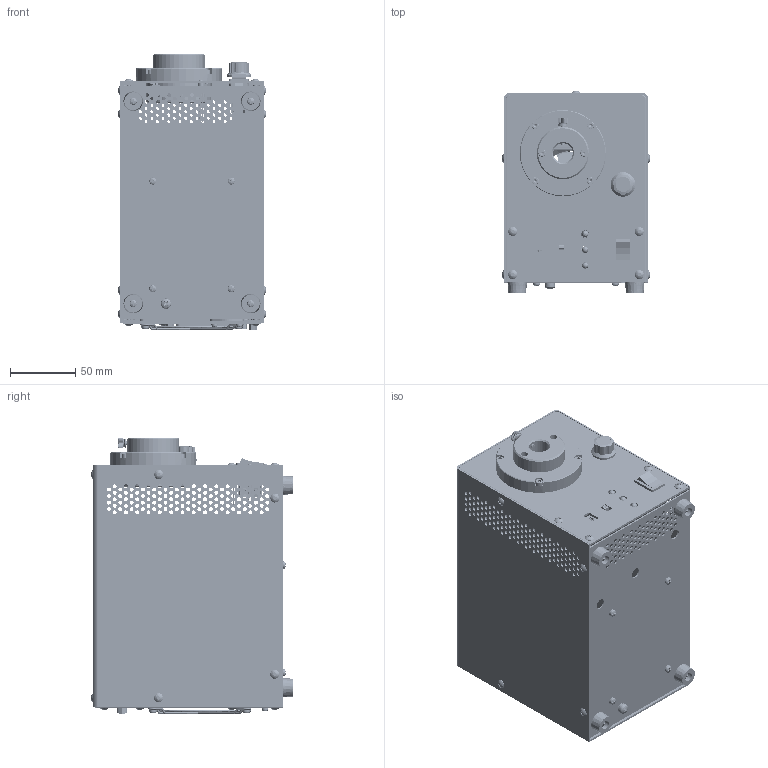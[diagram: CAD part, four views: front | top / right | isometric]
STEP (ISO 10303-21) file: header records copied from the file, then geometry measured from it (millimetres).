
FILE_DESCRIPTION (( 'STEP AP203' ), '1' );
FILE_NAME ('LA-HDF8010_1.STEP', '2020-08-11T04:00:54', ( ' ' ), ( '' ), 'SwSTEP 2.0', 'SolidWorks 2011', '' );
FILE_SCHEMA (( 'CONFIG_CONTROL_DESIGN' ));
Products named in the file (1): LA-HDF8010_1
Bounding box: 113.6 x 154.8 x 211.4 mm (x, y, z)
Surface area: 341783.4 mm2 (no closed solid volume)
Topology: 0 solids, 101 shells, 4876 faces, 13143 edges, 8585 vertices
Faces by surface type: cylinder 2312, plane 2028, cone 300, bspline 154, sphere 48, torus 34
Entity records: 167641 total; most frequent: CARTESIAN_POINT 42711, DIRECTION 26164, ORIENTED_EDGE 25912, EDGE_CURVE 12968, AXIS2_PLACEMENT_3D 9707, VERTEX_POINT 8500, LINE 6750, VECTOR 6750
